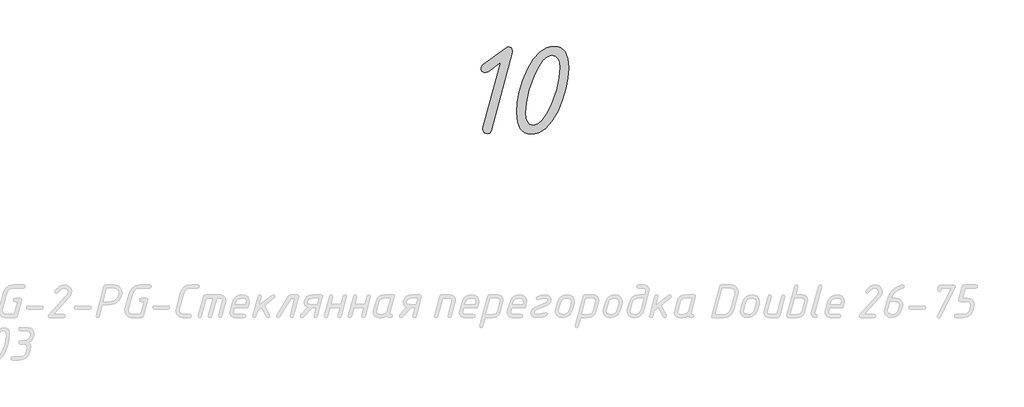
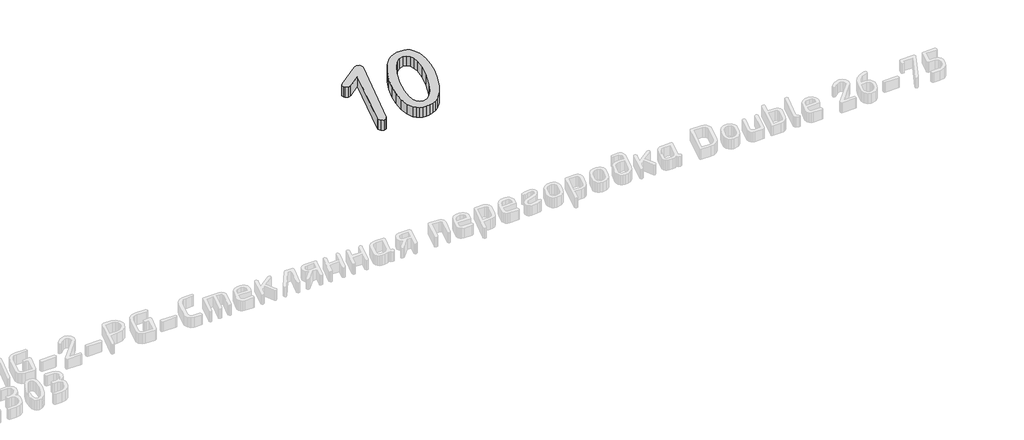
# One storey, part 10 of 22: 1 proxy.
"""IFC4 building model written with IfcOpenShell, lengths in millimetres."""

from ifc_helpers import new_model, si_unit, origin, origin_with_axes, place, context, project, spatial, polyline, outline, extrude, element, save

model = new_model("IFC4")

# Units and contexts
model_context = context("Model", 3, world=origin())
ifc_project = project(units=[si_unit("LENGTHUNIT", "METRE", prefix="MILLI")], contexts=[model_context])

# Site, building, storey
site = spatial("IfcSite", under=ifc_project)
building = spatial("IfcBuilding", under=site)
storey = spatial("IfcBuildingStorey", under=building, Name="Уровень 1", Elevation=0.0)

# Proxy
placement = place(None, origin())
element("IfcBuildingElementProxy", 1, Name="100", ObjectType="100", at=placement, inside=storey, context=model_context, shape_type="SweptSolid", body=[
    extrude(outline(polyline([(-24747.3196035, -50158.0714886), (-24804.5302977, -50202.0715196), (-24819.4455625, -50206.013411), (-24832.9225696, -50198.6090475), (-24836.3450902, -50191.7240547), (-24836.7046546, -50183.5339763), (-24834.2542896, -50176.2627847), (-24828.8208718, -50170.2167756), (-24724.6270935, -50092.6573988), (-24712.8014193, -50085.838992), (-24697.779617, -50090.7929907), (-24692.7723495, -50105.6549866), (-24693.4115751, -50111.4080173), (-24790.0411833, -50473.2097257), (-24796.9394933, -50484.3961743), (-24809.1114147, -50488.1249905), (-24823.2276475, -50482.1588846), (-24829.4600974, -50468.6286087), (-24828.5012589, -50462.5559652), (-24747.3196035, -50158.0714886)])), origin_with_axes(), (0.0, 0.0, 1.0), 50.0),
    extrude(outline(polyline([(-24485.2370939, -50385.7423516), (-24510.826095, -50430.5347561), (-24539.7577135, -50462.5293308), (-24555.4770043, -50473.7274319), (-24572.0319494, -50481.7260756), (-24589.4225489, -50486.5252618), (-24607.6488027, -50488.1249905), (-24622.98023, -50486.6018357), (-24636.267467, -50482.0323712), (-24647.5105136, -50474.416597), (-24656.70937, -50463.7545132), (-24668.9745119, -50433.2914167), (-24673.0628925, -50390.6430814), (-24669.8867401, -50343.133968), (-24660.358283, -50293.6139572), (-24644.4775212, -50242.0830491), (-24622.2444546, -50188.5412437), (-24596.6554535, -50143.6090086), (-24567.723835, -50111.5145549), (-24552.0045442, -50100.2814962), (-24535.4495991, -50092.2578827), (-24518.0589997, -50087.4437147), (-24499.8327459, -50085.838992), (-24484.5013186, -50087.3671408), (-24471.2140816, -50091.9515871), (-24459.9710349, -50099.592331), (-24450.7721785, -50110.2893725), (-24438.5070367, -50140.8523481), (-24434.4186561, -50183.6405139), (-24437.5948084, -50231.2694822), (-24447.1232655, -50280.8294445), (-24463.0040273, -50332.320401), (-24485.2370939, -50385.7423516)]), holes=[polyline([(-24491.9489631, -50286.9819913), (-24479.4840632, -50230.2240819), (-24475.3290966, -50184.3862771), (-24477.5530691, -50159.1701576), (-24484.2249866, -50141.1586437), (-24495.3448492, -50130.3517353), (-24510.9126568, -50126.7494325), (-24530.4889419, -50132.4958046), (-24550.3315709, -50149.7349209), (-24570.4405439, -50178.4667814), (-24590.815861, -50218.6913861), (-24615.5325855, -50286.9819913), (-24627.9974853, -50343.7399006), (-24632.1524519, -50389.5777054), (-24629.9284794, -50414.7938249), (-24623.2565619, -50432.8053388), (-24612.1366993, -50443.6122472), (-24596.5688917, -50447.21455), (-24577.0125825, -50441.4681779), (-24557.2298808, -50424.2290616), (-24537.2207868, -50395.4972011), (-24516.9853004, -50355.2725964), (-24491.9489631, -50286.9819913)])]), origin_with_axes(), (0.0, 0.0, 1.0), 50.0),
])

save(model, "model.ifc")
